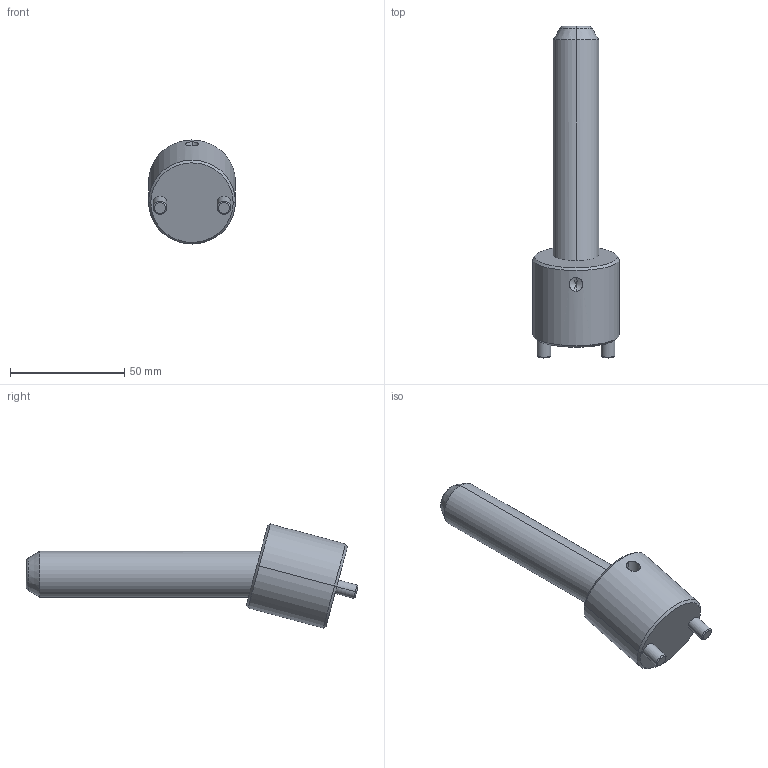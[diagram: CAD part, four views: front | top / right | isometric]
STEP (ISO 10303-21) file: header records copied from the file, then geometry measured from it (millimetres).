
FILE_DESCRIPTION(('CATIA V5 STEP Exchange'),'2;1');
FILE_NAME('C:\Users\Raffaele\Desktop\3D BOLEX\3D FILES CF BOLEX\19-INCLINED ASSEMBLY REF_CI\CI1520100.stp','2019-06-21T14:14:48+00:00',('none'),('none'),'CATIA Version 5 Release 20 GA (IN-10)','CATIA V5 STEP AP203','none');
FILE_SCHEMA(('CONFIG_CONTROL_DESIGN'));
Length unit declared in the file: millimetre
Products named in the file (1): CI1520100
Assembly tree (2 placements, depth 2):
  CI1520100
    #58
    #572
Bounding box: 38 x 145.15 x 45.51 mm (x, y, z)
Volume: 71531.2 mm3; surface area: 17433.5 mm2
Topology: 2 solids, 2 shells, 39 faces, 82 edges, 47 vertices
Faces by surface type: cone 14, cylinder 14, plane 7, torus 4
Entity records: 1494 total; most frequent: CARTESIAN_POINT 635, ORIENTED_EDGE 160, DIRECTION 145, EDGE_CURVE 80, AXIS2_PLACEMENT_3D 72, VERTEX_POINT 47, EDGE_LOOP 43, ADVANCED_FACE 39
